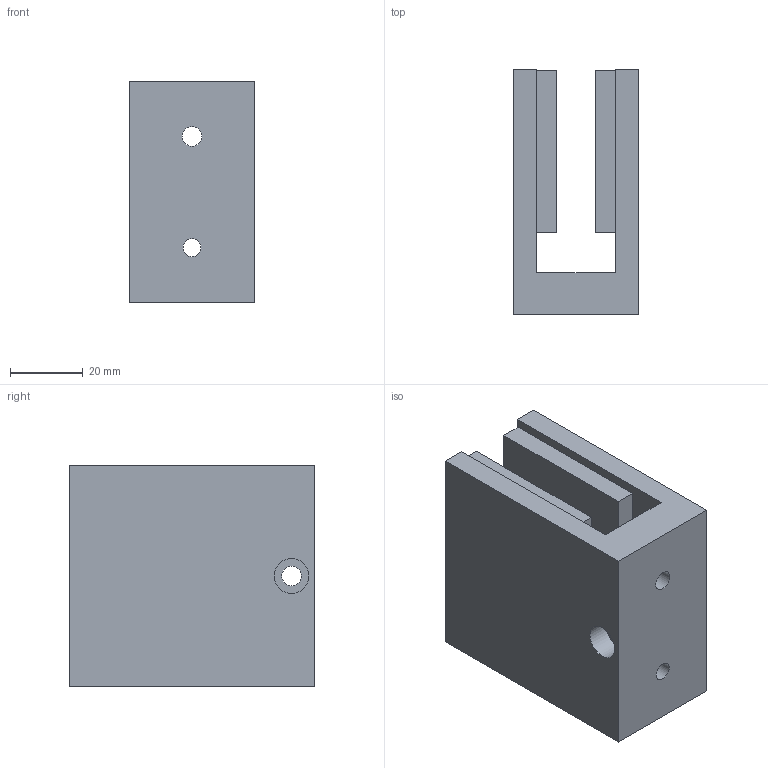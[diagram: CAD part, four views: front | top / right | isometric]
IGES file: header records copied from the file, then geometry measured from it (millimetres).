
Global section: file name: No Iges File Name specified; native system: Autodesk Inventor 2012; preprocessor: AutoDesk Inventor Iges Exporter R2012; author: je17857; date: 20120511.155259; units: inch
Bounding box: 34.29 x 67.31 x 60.71 mm (x, y, z)
Volume: 89577.8 mm3; surface area: 25473.4 mm2
Topology: 1 solids, 1 shells, 39 faces, 91 edges, 61 vertices
Faces by surface type: plane 33, revolution 6
